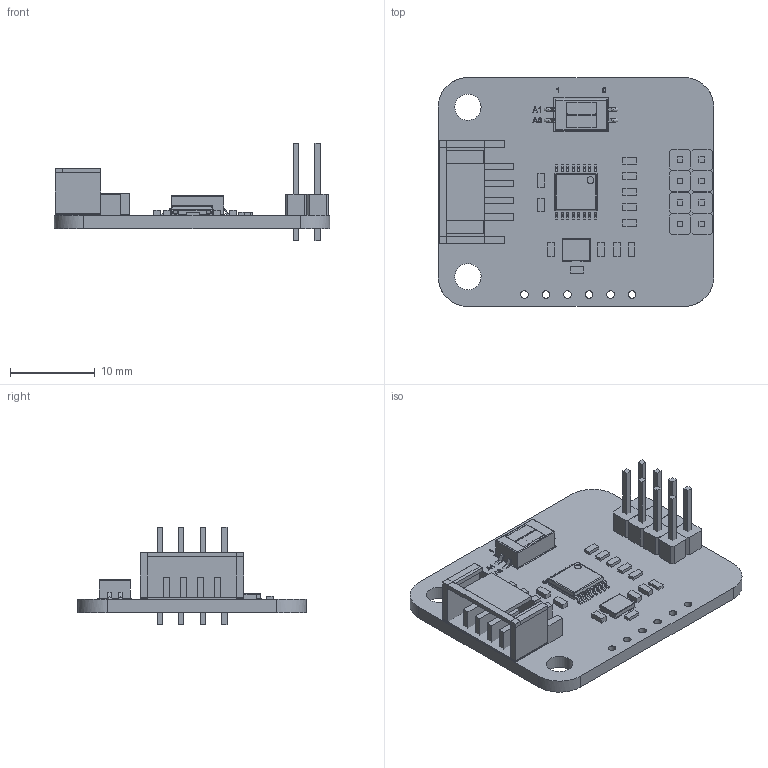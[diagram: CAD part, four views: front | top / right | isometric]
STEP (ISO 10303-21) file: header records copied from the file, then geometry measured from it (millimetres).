
FILE_DESCRIPTION(/* description */ (''),/* implementation_level */ '2;1');
FILE_NAME(/* name */ 'DFR0627',/* time_stamp */ '2024-03-21T09:56:07+08:00',/* author */ (''),/* organization */ (''),/* preprocessor_version */ 'ST-DEVELOPER v16.5',/* originating_system */ '',/* authorisation */ '');
FILE_SCHEMA (('AUTOMOTIVE_DESIGN'));
Length unit declared in the file: millimetre
Products named in the file (1): Document
Bounding box: 32.5 x 27 x 11.48 mm (x, y, z)
Volume: 1763.6 mm3; surface area: 3721.8 mm2
Topology: 86 solids, 86 shells, 819 faces, 1889 edges, 1242 vertices
Faces by surface type: plane 647, bspline 172
Entity records: 23500 total; most frequent: CARTESIAN_POINT 9481, ORIENTED_EDGE 3770, EDGE_CURVE 1885, B_SPLINE_CURVE_WITH_KNOTS 1653, VERTEX_POINT 1242, EDGE_LOOP 863, ADVANCED_FACE 819, FACE_OUTER_BOUND 819
